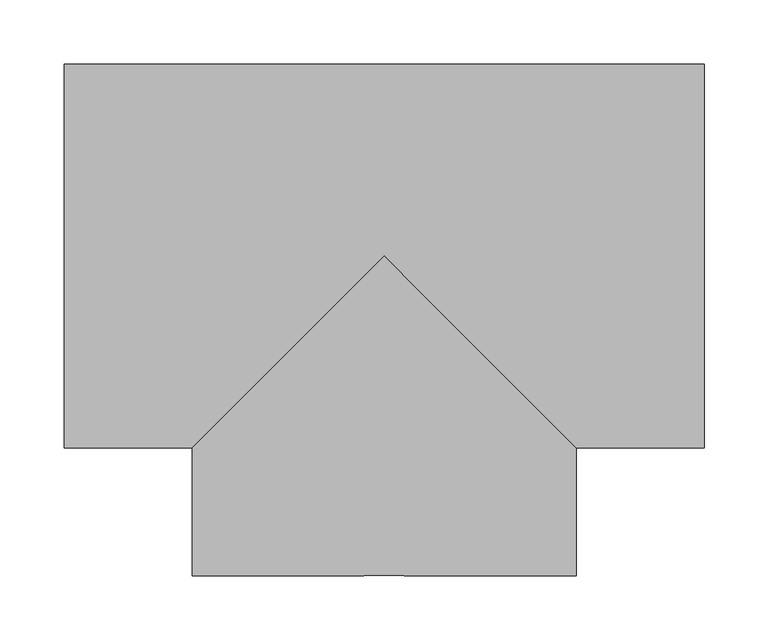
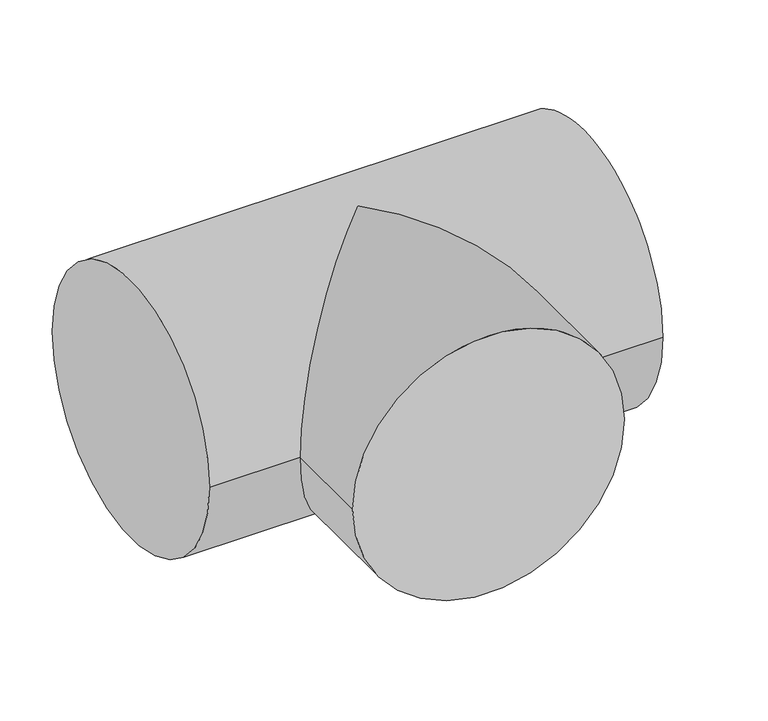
"""IFC4 building model written with IfcOpenShell, lengths in millimetres: duct fitting geometry, magicirc_tee_centric_90_001 : magicirc_tee_centric_90_001."""

from ifc_helpers import new_model, si_unit, frame, origin, place, context, project, spatial, circle_curve, ellipse_curve, source, transform, mapped, element, save
from ifc_brep_helpers import plane_surface, cylinder_surface, advanced_brep


def duct_fitting_d2df55eb(model_context):
    return source(origin(), model_context, "Body", "AdvancedBrep", [
        advanced_brep(
        [(-250.0, -150.0, 0.0), (-250.0, 150.0, 0.0), (250.0, -150.0, 0.0), (250.0, 150.0, 0.0), (-150.0, -150.0, 0.0), (0.0, 0.0, 150.0), (150.0, -150.0, 0.0), (0.0, 0.0, -150.0), (-150.0, -250.0, 0.0), (150.0, -250.0, 0.0)],
        [
            (0, 1, circle_curve(frame((-250.0, 0.0, 0.0), z_axis=(-1.0, 0.0, 0.0), x_axis=(0.0, 1.0, 0.0)), 150.0)),
            (1, 0, circle_curve(frame((-250.0, 0.0, 0.0), z_axis=(-1.0, 0.0, 0.0), x_axis=(0.0, 1.0, 0.0)), 150.0)),
            (2, 3, circle_curve(frame((250.0, 0.0, 0.0), z_axis=(1.0, 0.0, 0.0), x_axis=(0.0, 1.0, 0.0)), 150.0)),
            (3, 2, circle_curve(frame((250.0, 0.0, 0.0), z_axis=(1.0, 0.0, 0.0), x_axis=(0.0, 1.0, 0.0)), 150.0)),
            (0, 4),
            (4, 5, ellipse_curve(frame((0.0, 0.0, 0.0), z_axis=(-0.7071067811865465, 0.7071067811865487, 0.0), x_axis=(-0.7071067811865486, -0.7071067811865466, 0.0)), 212.1320344, 150.0)),
            (5, 6, ellipse_curve(frame((0.0, 0.0, 0.0), z_axis=(0.7071067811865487, 0.7071067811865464, 0.0), x_axis=(-0.7071067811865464, 0.7071067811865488, 0.0)), 212.1320344, 150.0)),
            (6, 2),
            (3, 1),
            (6, 7, ellipse_curve(frame((0.0, 0.0, 0.0), z_axis=(0.7071067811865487, 0.7071067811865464, 0.0), x_axis=(-0.7071067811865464, 0.7071067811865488, 0.0)), 212.1320344, 150.0)),
            (7, 4, ellipse_curve(frame((0.0, 0.0, 0.0), z_axis=(-0.7071067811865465, 0.7071067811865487, 0.0), x_axis=(-0.7071067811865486, -0.7071067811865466, 0.0)), 212.1320344, 150.0)),
            (8, 9, circle_curve(frame((0.0, -250.0, 0.0), z_axis=(0.0, -1.0, 0.0), x_axis=(1.0, 0.0, 0.0)), 150.0)),
            (9, 8, circle_curve(frame((0.0, -250.0, 0.0), z_axis=(0.0, -1.0, 0.0), x_axis=(1.0, 0.0, 0.0)), 150.0)),
            (9, 6),
            (4, 8),
        ],
        [
            plane_surface(frame((-250.0, 0.0, 0.0), z_axis=(-1.0, 0.0, 0.0), x_axis=(0.0, 0.0, 1.0))),
            plane_surface(frame((250.0, 0.0, 0.0), z_axis=(1.0, 0.0, 0.0), x_axis=(0.0, 0.0, 1.0))),
            cylinder_surface(frame((-250.0, 0.0, 0.0), z_axis=(-1.0, 0.0, 0.0), x_axis=(0.0, 1.0, 0.0)), 150.0),
            plane_surface(frame((0.0, -250.0, 0.0), z_axis=(0.0, -1.0, 0.0), x_axis=(0.0, 0.0, 1.0))),
            cylinder_surface(frame((0.0, 0.0, 0.0), z_axis=(0.0, 1.0, 0.0), x_axis=(1.0, 0.0, 0.0)), 150.0),
        ],
        [
            (0, [[1, 2]]),
            (1, [[3, 4]]),
            (2, [[-1, 5, 6, 7, 8, -4, 9]]),
            (2, [[-2, -9, -3, -8, 10, 11, -5]]),
            (3, [[12, 13]]),
            (4, [[-13, 14, -7, -6, 15]]),
            (4, [[-12, -15, -11, -10, -14]]),
        ],
    ),
    ])


if __name__ == "__main__":
    model = new_model("IFC4")
    model_context = context("Model", 3, world=origin())
    ifc_project = project(units=[si_unit("LENGTHUNIT", "METRE", prefix="MILLI")], contexts=[model_context])
    site = spatial("IfcSite", under=ifc_project)
    building = spatial("IfcBuilding", under=site)
    placement = place(None, origin())
    duct_fitting_shape = duct_fitting_d2df55eb(model_context)
    element("IfcDuctFitting", 1, ObjectType="magicirc_tee_centric_90_001 : magicirc_tee_centric_90_001", at=placement, inside=building, context=model_context, shape_type="MappedRepresentation", body=[
        mapped(duct_fitting_shape, transform((0.0, 0.0, 0.0), x_axis=(1.0, 0.0, 0.0), y_axis=(0.0, 1.0, 0.0), z_axis=(0.0, 0.0, 1.0))),
    ])
    save(model, "model.ifc")
